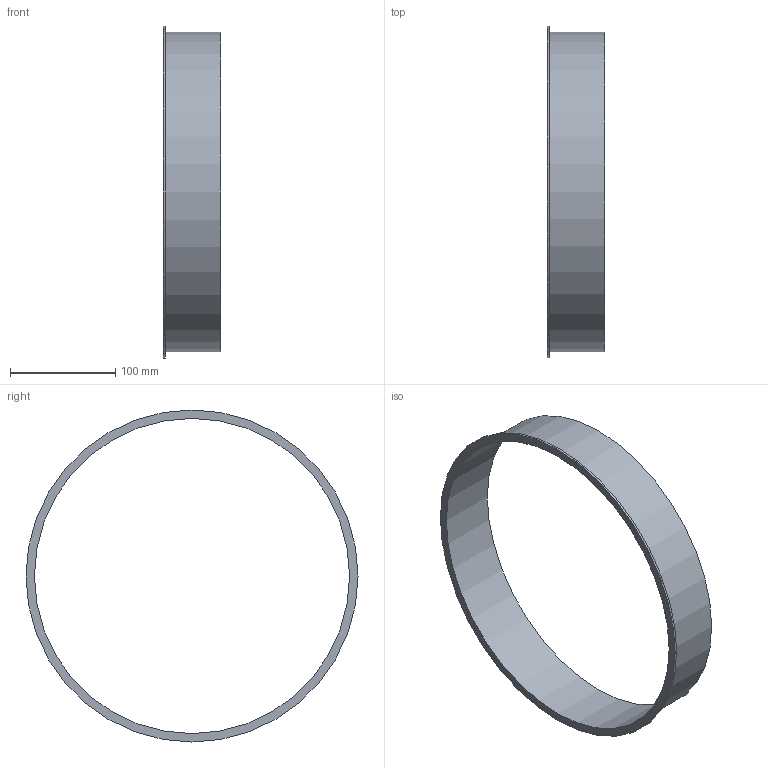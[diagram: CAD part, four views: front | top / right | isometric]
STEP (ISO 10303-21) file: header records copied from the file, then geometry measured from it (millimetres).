
FILE_DESCRIPTION((''),'2;1');
FILE_NAME('U:\Wolfgang\Marcel-3D\fertig\Kapitel 1\3021012.stp','2010-05-31T11:38:25',('TK2'),(''),'Autodesk Inventor 2010','Autodesk Inventor 2010','');
FILE_SCHEMA(('AUTOMOTIVE_DESIGN { 1 0 10303 214 1 1 1 1 }'));
Length unit declared in the file: millimetre
Products named in the file (1): 3021012
Bounding box: 55 x 315 x 315 mm (x, y, z)
Volume: 115667.2 mm3; surface area: 119525 mm2
Topology: 1 solids, 1 shells, 6 faces, 9 edges, 6 vertices
Faces by surface type: cylinder 3, plane 3
Full cylindrical faces by diameter (mm): 299 x1, 303 x1, 315 x1
Entity records: 154 total; most frequent: DIRECTION 26, CARTESIAN_POINT 19, AXIS2_PLACEMENT_3D 13, ORIENTED_EDGE 12, EDGE_LOOP 12, VERTEX_POINT 6, CIRCLE 6, EDGE_CURVE 6
